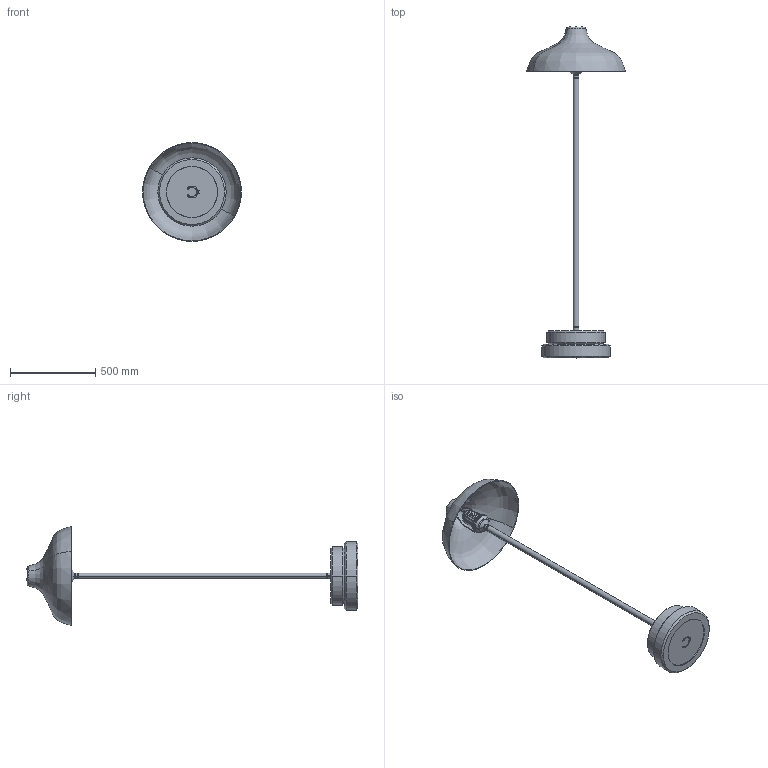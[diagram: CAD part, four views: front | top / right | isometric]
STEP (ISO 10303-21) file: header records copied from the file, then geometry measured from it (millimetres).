
FILE_DESCRIPTION((''),'2;1');
FILE_NAME('PAGODA_ASM','2023-01-09T19:17:58',('adriano.sorzio'),(''),'CREO PARAMETRIC BY PTC INC, 2020354','CREO PARAMETRIC BY PTC INC, 2020354','');
FILE_SCHEMA(('CONFIG_CONTROL_DESIGN','SHAPE_APPEARANCE_LAYERS_GROUPS'));
Length unit declared in the file: millimetre
Products named in the file (28): 01095; 01096; 01098; OR01-2_00X26_00; 01099; BN1416103; STEAB5922_3; BN1250515; 01107; M4X8-UNI5933; 01097; 01206; PA812071-A; PA812071-B; PA812071-C; PA812071-D; PA812071-C_ASM; PA812071-E; PA812071-F; PA812071_ASM; E27-L-002; 01103; 01104; 01105; 01103SD_ASM; 01106; 1196367_BRASS; PAGODA_ASM
Assembly tree (38 placements, depth 4):
  PAGODA_ASM
    01095
    01096
    01098
    OR01-2_00X26_00
    01099
    BN1416103  x2
    STEAB5922_3  x2
    BN1250515  x2
    01107
    M4X8-UNI5933  x3
    01097
    01206
    PA812071_ASM
      PA812071-A
      PA812071-B  x2
      PA812071-C_ASM
        PA812071-C
        PA812071-D
      PA812071-E
      PA812071-F  x2
    E27-L-002
    01103SD_ASM
      01103
      01104  x3
      01105
    01106
    1196367_BRASS  x3
Bounding box: 580 x 1944.5 x 580 mm (x, y, z)
Volume: 16710760.5 mm3; surface area: 2217142.1 mm2
Topology: 86 solids, 118 shells, 1631 faces, 3864 edges, 2432 vertices
Faces by surface type: cylinder 647, plane 486, cone 190, torus 142, bspline 126, sphere 36, revolution 4
Entity records: 51273 total; most frequent: CARTESIAN_POINT 14983, DIRECTION 7350, ORIENTED_EDGE 6206, EDGE_CURVE 3142, AXIS2_PLACEMENT_3D 3110, VERTEX_POINT 2010, CIRCLE 1809, EDGE_LOOP 1423
